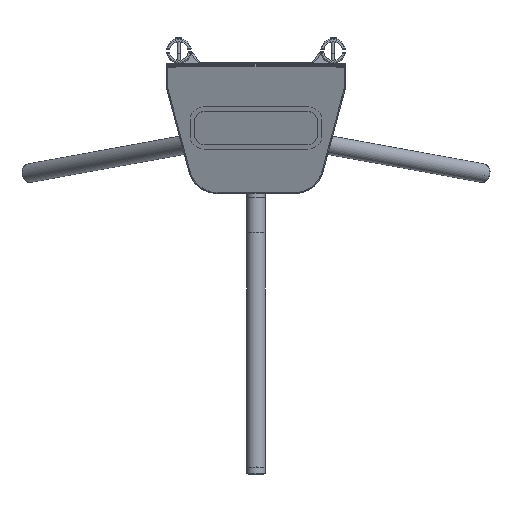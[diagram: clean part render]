
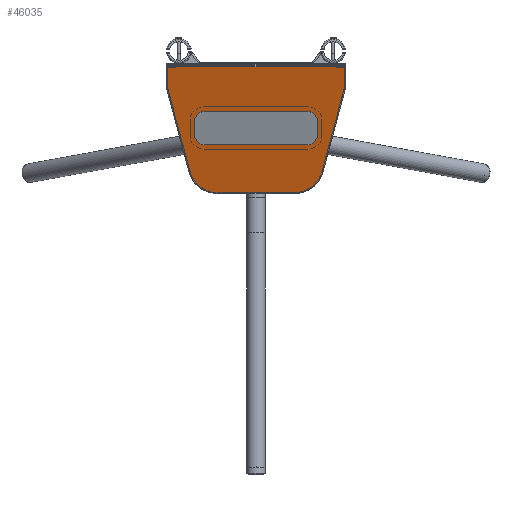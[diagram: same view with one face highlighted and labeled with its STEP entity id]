
A CAD part, top view. The second image highlights one B-rep face of the part: STEP entity #46035.
In plain terms, the highlighted planar face has unit normal (0, -0.309, 0.951).
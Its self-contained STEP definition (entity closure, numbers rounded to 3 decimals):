
#892=ELLIPSE('',#49281,50.481,48.01);
#893=ELLIPSE('',#49282,50.481,48.01);
#4813=LINE('',#105728,#6584);
#4815=LINE('',#105732,#6586);
#4816=LINE('',#105737,#6587);
#4817=LINE('',#105741,#6588);
#4818=LINE('',#105743,#6589);
#4819=LINE('',#105748,#6590);
#4820=LINE('',#105752,#6591);
#4821=LINE('',#105756,#6592);
#4822=LINE('',#105760,#6593);
#4823=LINE('',#105764,#6594);
#6584=VECTOR('',#57202,1000.);
#6586=VECTOR('',#57206,1000.);
#6587=VECTOR('',#57209,1000.);
#6588=VECTOR('',#57212,1000.);
#6589=VECTOR('',#57213,1000.);
#6590=VECTOR('',#57218,1000.);
#6591=VECTOR('',#57221,1000.);
#6592=VECTOR('',#57224,1000.);
#6593=VECTOR('',#57227,1000.);
#6594=VECTOR('',#57230,1000.);
#15743=ORIENTED_EDGE('',*,*,#20905,.T.);
#15744=ORIENTED_EDGE('',*,*,#20906,.T.);
#15745=ORIENTED_EDGE('',*,*,#20907,.T.);
#15746=ORIENTED_EDGE('',*,*,#20908,.T.);
#15747=ORIENTED_EDGE('',*,*,#20909,.T.);
#15748=ORIENTED_EDGE('',*,*,#20910,.T.);
#15749=ORIENTED_EDGE('',*,*,#20911,.T.);
#15750=ORIENTED_EDGE('',*,*,#20903,.T.);
#15751=ORIENTED_EDGE('',*,*,#20912,.T.);
#15752=ORIENTED_EDGE('',*,*,#20913,.T.);
#15753=ORIENTED_EDGE('',*,*,#20914,.F.);
#15754=ORIENTED_EDGE('',*,*,#20915,.F.);
#15755=ORIENTED_EDGE('',*,*,#20916,.F.);
#15756=ORIENTED_EDGE('',*,*,#20917,.F.);
#15757=ORIENTED_EDGE('',*,*,#20918,.F.);
#15758=ORIENTED_EDGE('',*,*,#20919,.F.);
#15759=ORIENTED_EDGE('',*,*,#20920,.F.);
#15760=ORIENTED_EDGE('',*,*,#20921,.F.);
#20903=EDGE_CURVE('',#24214,#24213,#4813,.T.);
#20905=EDGE_CURVE('',#24215,#24216,#4815,.F.);
#20906=EDGE_CURVE('',#24216,#24217,#892,.T.);
#20907=EDGE_CURVE('',#24217,#24218,#4816,.F.);
#20908=EDGE_CURVE('',#24218,#24219,#893,.T.);
#20909=EDGE_CURVE('',#24219,#24220,#4817,.F.);
#20910=EDGE_CURVE('',#24220,#24221,#4818,.F.);
#20911=EDGE_CURVE('',#24221,#24214,#25675,.T.);
#20912=EDGE_CURVE('',#24213,#24222,#25676,.T.);
#20913=EDGE_CURVE('',#24222,#24215,#4819,.T.);
#20914=EDGE_CURVE('',#24223,#24224,#25677,.T.);
#20915=EDGE_CURVE('',#24225,#24223,#4820,.T.);
#20916=EDGE_CURVE('',#24226,#24225,#25678,.T.);
#20917=EDGE_CURVE('',#24227,#24226,#4821,.T.);
#20918=EDGE_CURVE('',#24228,#24227,#25679,.T.);
#20919=EDGE_CURVE('',#24229,#24228,#4822,.T.);
#20920=EDGE_CURVE('',#24230,#24229,#25680,.T.);
#20921=EDGE_CURVE('',#24224,#24230,#4823,.T.);
#24213=VERTEX_POINT('',#105727);
#24214=VERTEX_POINT('',#105729);
#24215=VERTEX_POINT('',#105733);
#24216=VERTEX_POINT('',#105734);
#24217=VERTEX_POINT('',#105736);
#24218=VERTEX_POINT('',#105738);
#24219=VERTEX_POINT('',#105740);
#24220=VERTEX_POINT('',#105742);
#24221=VERTEX_POINT('',#105744);
#24222=VERTEX_POINT('',#105747);
#24223=VERTEX_POINT('',#105750);
#24224=VERTEX_POINT('',#105751);
#24225=VERTEX_POINT('',#105753);
#24226=VERTEX_POINT('',#105755);
#24227=VERTEX_POINT('',#105757);
#24228=VERTEX_POINT('',#105759);
#24229=VERTEX_POINT('',#105761);
#24230=VERTEX_POINT('',#105763);
#25675=CIRCLE('',#49283,3.15);
#25676=CIRCLE('',#49284,3.15);
#25677=CIRCLE('',#49285,16.5);
#25678=CIRCLE('',#49286,16.5);
#25679=CIRCLE('',#49287,16.5);
#25680=CIRCLE('',#49288,16.5);
#28438=EDGE_LOOP('',(#15743,#15744,#15745,#15746,#15747,#15748,#15749,#15750,
#15751,#15752));
#28439=EDGE_LOOP('',(#15753,#15754,#15755,#15756,#15757,#15758,#15759,#15760));
#31270=FACE_BOUND('',#28438,.T.);
#31271=FACE_BOUND('',#28439,.T.);
#32132=PLANE('',#49280);
#46035=ADVANCED_FACE('',(#31270,#31271),#32132,.T.);
#49280=AXIS2_PLACEMENT_3D('',#105731,#57204,#57205);
#49281=AXIS2_PLACEMENT_3D('',#105735,#57207,#57208);
#49282=AXIS2_PLACEMENT_3D('',#105739,#57210,#57211);
#49283=AXIS2_PLACEMENT_3D('',#105745,#57214,#57215);
#49284=AXIS2_PLACEMENT_3D('',#105746,#57216,#57217);
#49285=AXIS2_PLACEMENT_3D('',#105749,#57219,#57220);
#49286=AXIS2_PLACEMENT_3D('',#105754,#57222,#57223);
#49287=AXIS2_PLACEMENT_3D('',#105758,#57225,#57226);
#49288=AXIS2_PLACEMENT_3D('',#105762,#57228,#57229);
#57202=DIRECTION('',(-1.,0.,0.));
#57204=DIRECTION('',(0.,-0.309,0.951));
#57205=DIRECTION('',(0.,-0.951,-0.309));
#57206=DIRECTION('',(-0.247,0.922,0.299));
#57207=DIRECTION('',(0.,-0.309,0.951));
#57208=DIRECTION('',(0.,-0.951,-0.309));
#57209=DIRECTION('',(-1.,0.,0.));
#57210=DIRECTION('',(0.,-0.309,0.951));
#57211=DIRECTION('',(0.,-0.951,-0.309));
#57212=DIRECTION('',(-0.247,-0.922,-0.299));
#57213=DIRECTION('',(0.,-0.951,-0.309));
#57214=DIRECTION('',(0.,-0.309,0.951));
#57215=DIRECTION('',(0.,-0.951,-0.309));
#57216=DIRECTION('',(0.,-0.309,0.951));
#57217=DIRECTION('',(0.,-0.951,-0.309));
#57218=DIRECTION('',(0.,-0.951,-0.309));
#57219=DIRECTION('',(0.,-0.309,0.951));
#57220=DIRECTION('',(0.,-0.951,-0.309));
#57221=DIRECTION('',(-1.,0.,0.));
#57222=DIRECTION('',(0.,-0.309,0.951));
#57223=DIRECTION('',(0.,-0.951,-0.309));
#57224=DIRECTION('',(0.,0.951,0.309));
#57225=DIRECTION('',(0.,-0.309,0.951));
#57226=DIRECTION('',(0.,-0.951,-0.309));
#57227=DIRECTION('',(1.,0.,0.));
#57228=DIRECTION('',(0.,-0.309,0.951));
#57229=DIRECTION('',(0.,-0.951,-0.309));
#57230=DIRECTION('',(0.,-0.951,-0.309));
#105727=CARTESIAN_POINT('',(-149.099,-0.618,154.718));
#105728=CARTESIAN_POINT('',(-158.694,-0.618,154.718));
#105729=CARTESIAN_POINT('',(149.099,-0.618,154.718));
#105731=CARTESIAN_POINT('',(158.694,-3.332,153.836));
#105732=CARTESIAN_POINT('',(-112.635,-179.227,96.684));
#105733=CARTESIAN_POINT('',(-150.349,-38.475,142.417));
#105734=CARTESIAN_POINT('',(-112.467,-179.853,96.481));
#105735=CARTESIAN_POINT('',(-66.093,-167.427,100.518));
#105736=CARTESIAN_POINT('',(-66.093,-215.437,84.919));
#105737=CARTESIAN_POINT('',(65.719,-215.437,84.919));
#105738=CARTESIAN_POINT('',(66.093,-215.437,84.919));
#105739=CARTESIAN_POINT('',(66.093,-167.427,100.518));
#105740=CARTESIAN_POINT('',(112.467,-179.853,96.481));
#105741=CARTESIAN_POINT('',(148.57,-45.117,140.259));
#105742=CARTESIAN_POINT('',(150.349,-38.475,142.417));
#105743=CARTESIAN_POINT('',(150.349,-3.614,153.744));
#105744=CARTESIAN_POINT('',(150.349,-0.864,154.638));
#105745=CARTESIAN_POINT('',(149.099,-3.614,153.744));
#105746=CARTESIAN_POINT('',(-149.099,-3.614,153.744));
#105747=CARTESIAN_POINT('',(-150.349,-0.864,154.638));
#105748=CARTESIAN_POINT('',(-150.349,-3.332,153.836));
#105749=CARTESIAN_POINT('',(-88.,-92.93,124.724));
#105750=CARTESIAN_POINT('',(-88.,-77.238,129.823));
#105751=CARTESIAN_POINT('',(-104.5,-92.93,124.724));
#105752=CARTESIAN_POINT('',(158.694,-77.238,129.823));
#105753=CARTESIAN_POINT('',(88.,-77.238,129.823));
#105754=CARTESIAN_POINT('',(88.,-92.93,124.724));
#105755=CARTESIAN_POINT('',(104.5,-92.93,124.724));
#105756=CARTESIAN_POINT('',(104.5,-3.332,153.836));
#105757=CARTESIAN_POINT('',(104.5,-118.608,116.38));
#105758=CARTESIAN_POINT('',(88.,-118.608,116.38));
#105759=CARTESIAN_POINT('',(88.,-134.301,111.282));
#105760=CARTESIAN_POINT('',(158.694,-134.301,111.282));
#105761=CARTESIAN_POINT('',(-88.,-134.301,111.282));
#105762=CARTESIAN_POINT('',(-88.,-118.608,116.38));
#105763=CARTESIAN_POINT('',(-104.5,-118.608,116.38));
#105764=CARTESIAN_POINT('',(-104.5,-3.332,153.836));
